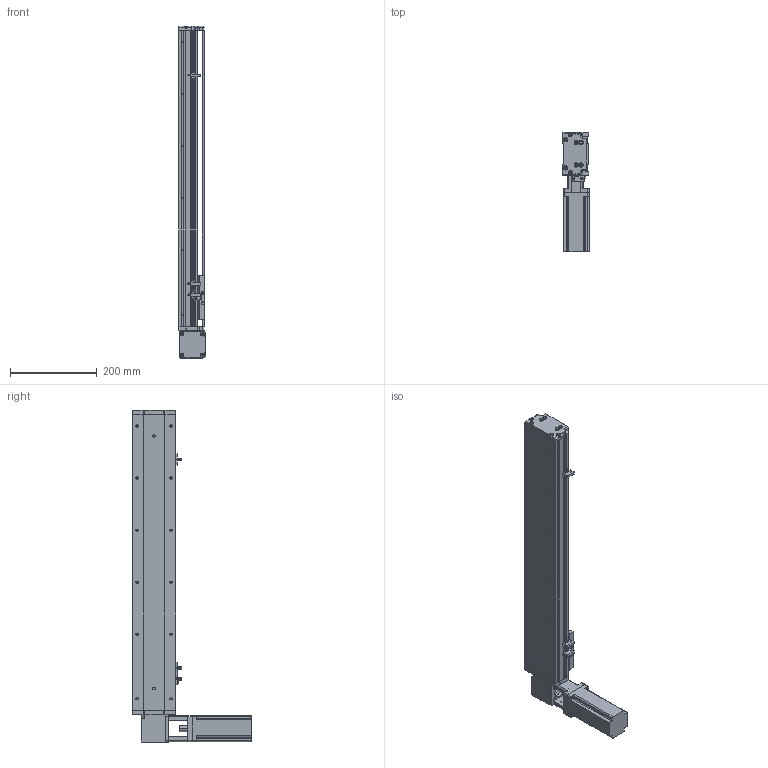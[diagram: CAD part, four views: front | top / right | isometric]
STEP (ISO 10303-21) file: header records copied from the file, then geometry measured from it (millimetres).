
FILE_DESCRIPTION (( 'STEP AP214' ), '1' );
FILE_NAME ('KSD100B-S500-MLT-CM.STEP', '2019-10-26T05:45:42', ( '微软用户' ), ( '微软中国' ), 'SwSTEP 2.0', 'SolidWorks 2014', '' );
FILE_SCHEMA (( 'AUTOMOTIVE_DESIGN' ));
Length unit declared in the file: millimetre
Products named in the file (12): KSD100B-S500-MLT-CM; 100宽安装板同步带带电机座400W,86; 100遵鎮湛假蚾啣1 ; 100宽防尘板500行程-同步带; U倰嫖萇EEㄜSX672; 覜茼え100遵圉猾敕; 台达ECMA－C20604AS伺服电机; 100宽马达安装板同步带右; 100宽同步带安装板半封闭; 100宽马达安装板同步带; 100遵傷啣肮祭湍; 100宽底板半封闭同步带500行程
Assembly tree (13 placements, depth 2):
  KSD100B-S500-MLT-CM
    100宽底板半封闭同步带500行程
    100遵傷啣肮祭湍
    100宽马达安装板同步带
    100宽同步带安装板半封闭
    100宽马达安装板同步带右
    台达ECMA－C20604AS伺服电机
    覜茼え100遵圉猾敕
    U倰嫖萇EEㄜSX672  x3
    100宽防尘板500行程-同步带
    100遵鎮湛假蚾啣1 
    100宽安装板同步带带电机座400W,86
Bounding box: 61 x 275 x 765 mm (x, y, z)
Volume: 1979374.1 mm3; surface area: 609953.1 mm2
Topology: 14 solids, 14 shells, 1320 faces, 3681 edges, 2357 vertices
Faces by surface type: cylinder 654, plane 559, cone 107
Entity records: 44885 total; most frequent: CARTESIAN_POINT 8386, DIRECTION 6365, ORIENTED_EDGE 6054, EDGE_CURVE 3027, AXIS2_PLACEMENT_3D 2330, VERTEX_POINT 1981, LINE 1705, VECTOR 1705
